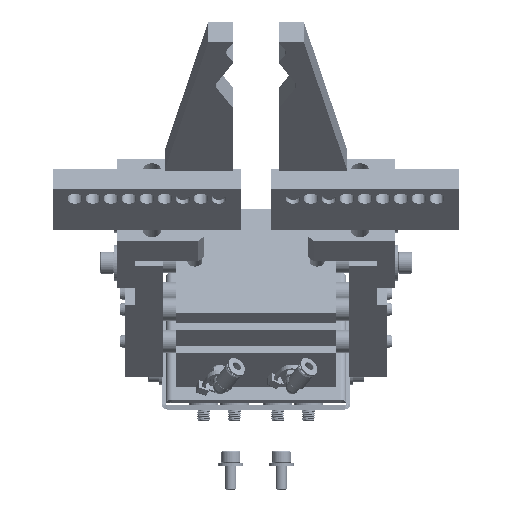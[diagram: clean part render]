
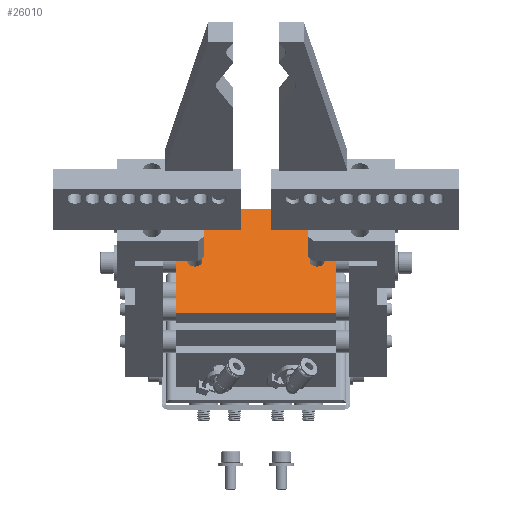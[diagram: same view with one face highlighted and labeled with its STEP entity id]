
A CAD part, left-side view. The second image highlights one B-rep face of the part: STEP entity #26010.
In plain terms, the highlighted planar face has unit normal (-0.707, 0, 0.707) as drawn and (0, -1, 0) by its records, which use the part's own axes.
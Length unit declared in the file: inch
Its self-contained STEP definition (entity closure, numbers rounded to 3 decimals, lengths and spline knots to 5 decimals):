
#473 = CARTESIAN_POINT ( 'NONE',  ( 1.39764, -1.81102, -1.27953 ) ) ;
#1113 = DIRECTION ( 'NONE',  ( 0., 0., 1. ) ) ;
#2586 = DIRECTION ( 'NONE',  ( -1., 0., 0. ) ) ;
#3857 = CIRCLE ( 'NONE', #19933, 0.12992 ) ;
#3862 = ORIENTED_EDGE ( 'NONE', *, *, #6728, .F. ) ;
#4103 = AXIS2_PLACEMENT_3D ( 'NONE', #11077, #26831, #21143 ) ;
#4369 = DIRECTION ( 'NONE',  ( 0., 1., 0. ) ) ;
#4857 = CIRCLE ( 'NONE', #12548, 0.12992 ) ;
#5510 = VERTEX_POINT ( 'NONE', #8720 ) ;
#5871 = DIRECTION ( 'NONE',  ( 0., 1., 0. ) ) ;
#6728 = EDGE_CURVE ( 'NONE', #22974, #24297, #42459, .T. ) ;
#7132 = DIRECTION ( 'NONE',  ( 0., 1., 0. ) ) ;
#7151 = FACE_OUTER_BOUND ( 'NONE', #29119, .T. ) ;
#8002 = CARTESIAN_POINT ( 'NONE',  ( -1.06299, -1.81102, 0. ) ) ;
#8573 = EDGE_LOOP ( 'NONE', ( #42092, #34706 ) ) ;
#8720 = CARTESIAN_POINT ( 'NONE',  ( -1.06299, -1.81102, 0.12992 ) ) ;
#8724 = CARTESIAN_POINT ( 'NONE',  ( 1.06299, -1.81102, 0. ) ) ;
#10837 = DIRECTION ( 'NONE',  ( 0., 0., 1. ) ) ;
#11077 = CARTESIAN_POINT ( 'NONE',  ( 0., -1.81102, 0. ) ) ;
#11137 = CARTESIAN_POINT ( 'NONE',  ( -1.06299, -1.81102, 0. ) ) ;
#11359 = CARTESIAN_POINT ( 'NONE',  ( -1.39764, -1.81102, -1.27953 ) ) ;
#11781 = CARTESIAN_POINT ( 'NONE',  ( 1.06299, -1.81102, 0. ) ) ;
#12548 = AXIS2_PLACEMENT_3D ( 'NONE', #11781, #5871, #31925 ) ;
#13134 = EDGE_LOOP ( 'NONE', ( #41589, #19506 ) ) ;
#13724 = EDGE_CURVE ( 'NONE', #24297, #14692, #17020, .T. ) ;
#13743 = CARTESIAN_POINT ( 'NONE',  ( 1.39764, -1.81102, -1.27953 ) ) ;
#14692 = VERTEX_POINT ( 'NONE', #473 ) ;
#14872 = CARTESIAN_POINT ( 'NONE',  ( -1.39764, -1.81102, 1.27953 ) ) ;
#15510 = DIRECTION ( 'NONE',  ( 0., 0., 1. ) ) ;
#15762 = EDGE_CURVE ( 'NONE', #38619, #5510, #3857, .T. ) ;
#15940 = CARTESIAN_POINT ( 'NONE',  ( 1.39764, -1.81102, 1.27953 ) ) ;
#16400 = CIRCLE ( 'NONE', #31039, 0.12992 ) ;
#16827 = VERTEX_POINT ( 'NONE', #42217 ) ;
#17020 = LINE ( 'NONE', #13743, #37287 ) ;
#18502 = CARTESIAN_POINT ( 'NONE',  ( -1.39764, -1.81102, -1.27953 ) ) ;
#19506 = ORIENTED_EDGE ( 'NONE', *, *, #27289, .T. ) ;
#19933 = AXIS2_PLACEMENT_3D ( 'NONE', #8002, #7132, #10837 ) ;
#20699 = FACE_BOUND ( 'NONE', #13134, .T. ) ;
#21143 = DIRECTION ( 'NONE',  ( 0., 0., 1. ) ) ;
#21516 = CARTESIAN_POINT ( 'NONE',  ( -1.39764, -1.81102, 1.27953 ) ) ;
#22628 = EDGE_CURVE ( 'NONE', #27065, #22974, #42598, .T. ) ;
#22974 = VERTEX_POINT ( 'NONE', #21516 ) ;
#23990 = EDGE_CURVE ( 'NONE', #5510, #38619, #32728, .T. ) ;
#24297 = VERTEX_POINT ( 'NONE', #15940 ) ;
#26010 = ADVANCED_FACE ( 'NONE', ( #37346, #20699, #7151 ), #40209, .F. ) ;
#26360 = CARTESIAN_POINT ( 'NONE',  ( 1.06299, -1.81102, 0.12992 ) ) ;
#26831 = DIRECTION ( 'NONE',  ( 0., 1., 0. ) ) ;
#27065 = VERTEX_POINT ( 'NONE', #11359 ) ;
#27071 = DIRECTION ( 'NONE',  ( 0., 0., -1. ) ) ;
#27289 = EDGE_CURVE ( 'NONE', #16827, #35874, #4857, .T. ) ;
#28206 = DIRECTION ( 'NONE',  ( 1., 0., 0. ) ) ;
#29119 = EDGE_LOOP ( 'NONE', ( #39130, #35298, #35036, #3862 ) ) ;
#29157 = VECTOR ( 'NONE', #28206, 39.37008 ) ;
#31039 = AXIS2_PLACEMENT_3D ( 'NONE', #8724, #33011, #15510 ) ;
#31054 = CARTESIAN_POINT ( 'NONE',  ( -1.06299, -1.81102, -0.12992 ) ) ;
#31925 = DIRECTION ( 'NONE',  ( 0., 0., 1. ) ) ;
#32728 = CIRCLE ( 'NONE', #39039, 0.12992 ) ;
#33011 = DIRECTION ( 'NONE',  ( 0., 1., 0. ) ) ;
#34706 = ORIENTED_EDGE ( 'NONE', *, *, #15762, .T. ) ;
#35036 = ORIENTED_EDGE ( 'NONE', *, *, #13724, .F. ) ;
#35199 = LINE ( 'NONE', #38907, #39427 ) ;
#35298 = ORIENTED_EDGE ( 'NONE', *, *, #38019, .F. ) ;
#35371 = DIRECTION ( 'NONE',  ( 0., 0., 1. ) ) ;
#35704 = VECTOR ( 'NONE', #35371, 39.37008 ) ;
#35874 = VERTEX_POINT ( 'NONE', #26360 ) ;
#37287 = VECTOR ( 'NONE', #27071, 39.37008 ) ;
#37346 = FACE_BOUND ( 'NONE', #8573, .T. ) ;
#38019 = EDGE_CURVE ( 'NONE', #14692, #27065, #35199, .T. ) ;
#38619 = VERTEX_POINT ( 'NONE', #31054 ) ;
#38788 = EDGE_CURVE ( 'NONE', #35874, #16827, #16400, .T. ) ;
#38907 = CARTESIAN_POINT ( 'NONE',  ( -1.39764, -1.81102, -1.27953 ) ) ;
#39039 = AXIS2_PLACEMENT_3D ( 'NONE', #11137, #4369, #1113 ) ;
#39130 = ORIENTED_EDGE ( 'NONE', *, *, #22628, .F. ) ;
#39427 = VECTOR ( 'NONE', #2586, 39.37008 ) ;
#40209 = PLANE ( 'NONE',  #4103 ) ;
#41589 = ORIENTED_EDGE ( 'NONE', *, *, #38788, .T. ) ;
#42092 = ORIENTED_EDGE ( 'NONE', *, *, #23990, .T. ) ;
#42217 = CARTESIAN_POINT ( 'NONE',  ( 1.06299, -1.81102, -0.12992 ) ) ;
#42459 = LINE ( 'NONE', #14872, #29157 ) ;
#42598 = LINE ( 'NONE', #18502, #35704 ) ;
